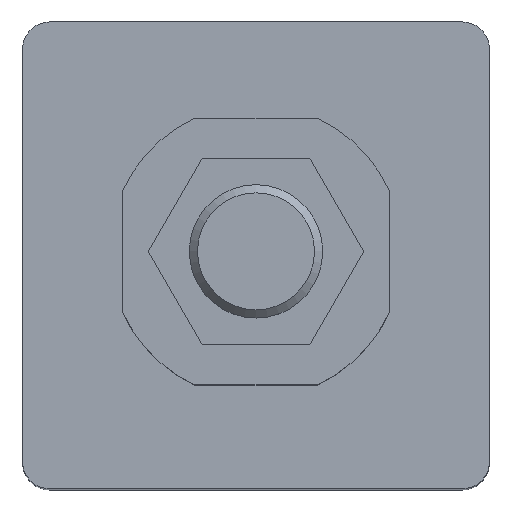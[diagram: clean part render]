
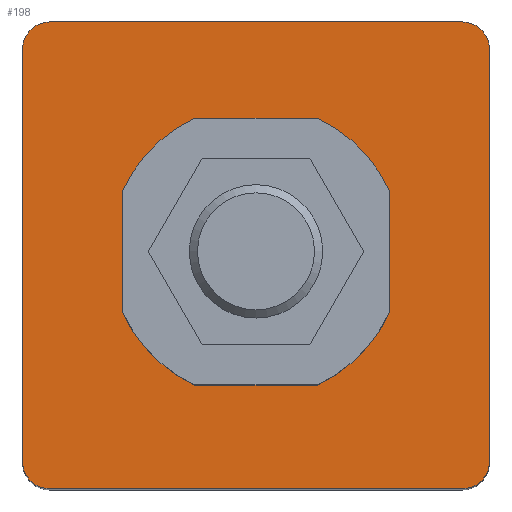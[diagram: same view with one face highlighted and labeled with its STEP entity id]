
A CAD part, top view. The second image highlights one B-rep face of the part: STEP entity #198.
In plain terms, the highlighted planar face has unit normal (0, 0, 1) as drawn and (0, 0, -1) by its records, which use the part's own axes.
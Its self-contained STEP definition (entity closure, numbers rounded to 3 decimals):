
#198 = ADVANCED_FACE( '', ( #436, #437 ), #438, .F. );
#436 = FACE_BOUND( '', #732, .T. );
#437 = FACE_OUTER_BOUND( '', #733, .T. );
#438 = PLANE( '', #734 );
#732 = EDGE_LOOP( '', ( #1104 ) );
#733 = EDGE_LOOP( '', ( #1105, #1106, #1107, #1108, #1109, #1110, #1111, #1112 ) );
#734 = AXIS2_PLACEMENT_3D( '', #1113, #1114, #1115 );
#1104 = ORIENTED_EDGE( '', *, *, #1627, .T. );
#1105 = ORIENTED_EDGE( '', *, *, #1628, .F. );
#1106 = ORIENTED_EDGE( '', *, *, #1629, .F. );
#1107 = ORIENTED_EDGE( '', *, *, #1566, .F. );
#1108 = ORIENTED_EDGE( '', *, *, #1577, .F. );
#1109 = ORIENTED_EDGE( '', *, *, #1630, .F. );
#1110 = ORIENTED_EDGE( '', *, *, #1631, .F. );
#1111 = ORIENTED_EDGE( '', *, *, #1561, .F. );
#1112 = ORIENTED_EDGE( '', *, *, #1594, .F. );
#1113 = CARTESIAN_POINT( '', ( -15.5, 15.5, -57. ) );
#1114 = DIRECTION( '', ( 0., 0., 1. ) );
#1115 = DIRECTION( '', ( 1., 0., 0. ) );
#1561 = EDGE_CURVE( '', #1806, #1808, #1809, .T. );
#1566 = EDGE_CURVE( '', #1815, #1817, #1818, .T. );
#1577 = EDGE_CURVE( '', #1834, #1815, #1836, .T. );
#1594 = EDGE_CURVE( '', #1863, #1806, #1865, .T. );
#1627 = EDGE_CURVE( '', #1915, #1915, #1916, .T. );
#1628 = EDGE_CURVE( '', #1917, #1863, #1918, .T. );
#1629 = EDGE_CURVE( '', #1817, #1917, #1919, .T. );
#1630 = EDGE_CURVE( '', #1920, #1834, #1921, .T. );
#1631 = EDGE_CURVE( '', #1808, #1920, #1922, .T. );
#1806 = VERTEX_POINT( '', #2150 );
#1808 = VERTEX_POINT( '', #2153 );
#1809 = CIRCLE( '', #2154, 2. );
#1815 = VERTEX_POINT( '', #2161 );
#1817 = VERTEX_POINT( '', #2164 );
#1818 = CIRCLE( '', #2165, 2. );
#1834 = VERTEX_POINT( '', #2183 );
#1836 = LINE( '', #2186, #2187 );
#1863 = VERTEX_POINT( '', #2221 );
#1865 = LINE( '', #2224, #2225 );
#1915 = VERTEX_POINT( '', #2283 );
#1916 = CIRCLE( '', #2284, 9. );
#1917 = VERTEX_POINT( '', #2285 );
#1918 = CIRCLE( '', #2286, 2. );
#1919 = LINE( '', #2287, #2288 );
#1920 = VERTEX_POINT( '', #2289 );
#1921 = CIRCLE( '', #2290, 2. );
#1922 = LINE( '', #2291, #2292 );
#2150 = CARTESIAN_POINT( '', ( -17.5, -15.5, -57. ) );
#2153 = CARTESIAN_POINT( '', ( -15.5, -17.5, -57. ) );
#2154 = AXIS2_PLACEMENT_3D( '', #2558, #2559, #2560 );
#2161 = CARTESIAN_POINT( '', ( 17.5, 15.5, -57. ) );
#2164 = CARTESIAN_POINT( '', ( 15.5, 17.5, -57. ) );
#2165 = AXIS2_PLACEMENT_3D( '', #2566, #2567, #2568 );
#2183 = CARTESIAN_POINT( '', ( 17.5, -15.5, -57. ) );
#2186 = CARTESIAN_POINT( '', ( 17.5, -15.5, -57. ) );
#2187 = VECTOR( '', #2587, 1000. );
#2221 = CARTESIAN_POINT( '', ( -17.5, 15.5, -57. ) );
#2224 = CARTESIAN_POINT( '', ( -17.5, 15.5, -57. ) );
#2225 = VECTOR( '', #2608, 1000. );
#2283 = CARTESIAN_POINT( '', ( 9., 0., -57. ) );
#2284 = AXIS2_PLACEMENT_3D( '', #2650, #2651, #2652 );
#2285 = CARTESIAN_POINT( '', ( -15.5, 17.5, -57. ) );
#2286 = AXIS2_PLACEMENT_3D( '', #2653, #2654, #2655 );
#2287 = CARTESIAN_POINT( '', ( 15.5, 17.5, -57. ) );
#2288 = VECTOR( '', #2656, 1000. );
#2289 = CARTESIAN_POINT( '', ( 15.5, -17.5, -57. ) );
#2290 = AXIS2_PLACEMENT_3D( '', #2657, #2658, #2659 );
#2291 = CARTESIAN_POINT( '', ( -15.5, -17.5, -57. ) );
#2292 = VECTOR( '', #2660, 1000. );
#2558 = CARTESIAN_POINT( '', ( -15.5, -15.5, -57. ) );
#2559 = DIRECTION( '', ( 0., 0., 1. ) );
#2560 = DIRECTION( '', ( 1., 0., 0. ) );
#2566 = CARTESIAN_POINT( '', ( 15.5, 15.5, -57. ) );
#2567 = DIRECTION( '', ( 0., 0., 1. ) );
#2568 = DIRECTION( '', ( 1., 0., 0. ) );
#2587 = DIRECTION( '', ( 0., 1., 0. ) );
#2608 = DIRECTION( '', ( 0., -1., 0. ) );
#2650 = CARTESIAN_POINT( '', ( 0., 0., -57. ) );
#2651 = DIRECTION( '', ( 0., 0., 1. ) );
#2652 = DIRECTION( '', ( 1., 0., 0. ) );
#2653 = CARTESIAN_POINT( '', ( -15.5, 15.5, -57. ) );
#2654 = DIRECTION( '', ( 0., 0., 1. ) );
#2655 = DIRECTION( '', ( 1., 0., 0. ) );
#2656 = DIRECTION( '', ( -1., 0., 0. ) );
#2657 = CARTESIAN_POINT( '', ( 15.5, -15.5, -57. ) );
#2658 = DIRECTION( '', ( 0., 0., 1. ) );
#2659 = DIRECTION( '', ( 1., 0., 0. ) );
#2660 = DIRECTION( '', ( 1., 0., 0. ) );
